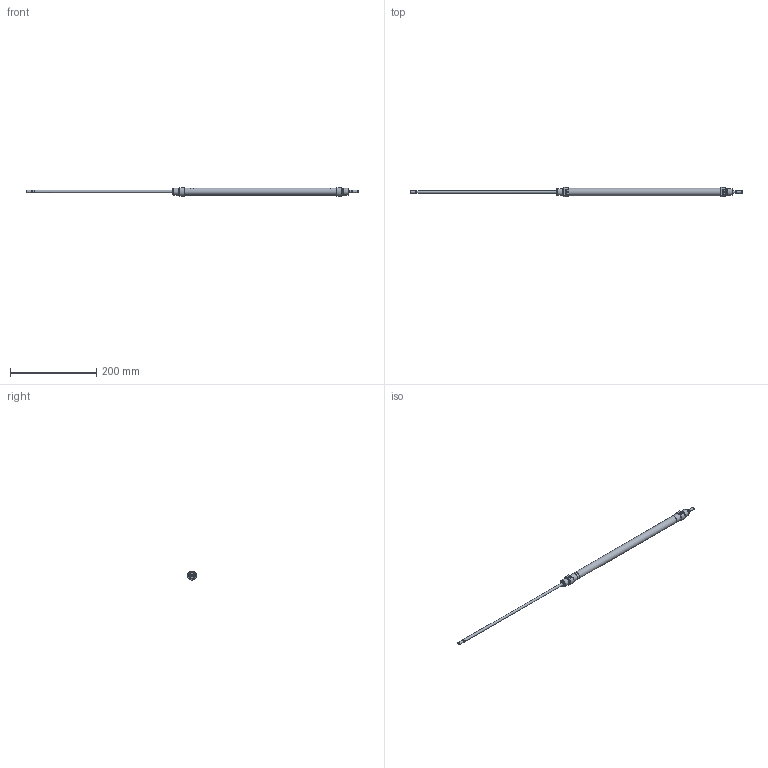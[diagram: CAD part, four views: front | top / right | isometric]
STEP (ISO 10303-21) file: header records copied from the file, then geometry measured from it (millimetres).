
FILE_DESCRIPTION( ( 'STEP AP203' ), '1' );
FILE_NAME( '//expscmdclustefs.cadenas.external/client_exchange/iodir/jobs/output/wkb68413699_no0/STEP/M101-016-0320-M__0__2_03.stp', ' ', ( ' ' ), ( ' ' ), 'PSStep 15.0.47', 'PARTsolutions', ' ' );
FILE_SCHEMA( ( 'CONFIG_CONTROL_DESIGN' ) );
Length unit declared in the file: millimetre
Products named in the file (3): M101-016-0320-M [0]; HI_M101-016-0320-M-[0]-z; HI_M101-016-0320-M-[0]-k
Assembly tree (2 placements, depth 2):
  M101-016-0320-M [0]
    HI_M101-016-0320-M-[0]-z
    HI_M101-016-0320-M-[0]-k
Bounding box: 772 x 20.94 x 19.09 mm (x, y, z)
Volume: 51731.1 mm3; surface area: 56736.8 mm2
Topology: 2 solids, 2 shells, 67 faces, 135 edges, 82 vertices
Faces by surface type: plane 28, cylinder 23, cone 14, torus 2
Full cylindrical faces by diameter (mm): 4.134 x2, 4.773 x2, 6 x6, 14.16 x4, 16 x6, 17.3 x1
Entity records: 1730 total; most frequent: CARTESIAN_POINT 334, DIRECTION 292, ORIENTED_EDGE 196, AXIS2_PLACEMENT_3D 132, EDGE_LOOP 116, EDGE_CURVE 98, FACE_OUTER_BOUND 90, VERTEX_POINT 78
